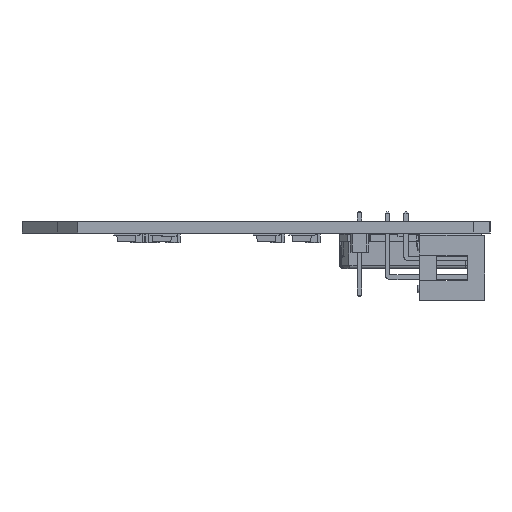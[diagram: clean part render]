
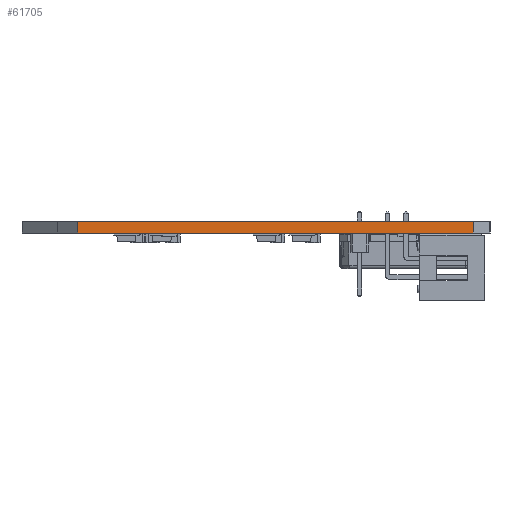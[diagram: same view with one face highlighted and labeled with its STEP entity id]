
A CAD part, left-side view. The second image highlights one B-rep face of the part: STEP entity #61705.
In plain terms, the highlighted planar face has unit normal (-1, 0, 0).
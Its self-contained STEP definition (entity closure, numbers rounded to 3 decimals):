
#58440 = VERTEX_POINT('',#58441);
#58441 = CARTESIAN_POINT('',(28.448,-36.068,0.));
#58447 = EDGE_CURVE('',#58448,#58440,#58450,.T.);
#58448 = VERTEX_POINT('',#58449);
#58449 = CARTESIAN_POINT('',(28.448,-89.916,0.));
#58450 = LINE('',#58451,#58452);
#58451 = CARTESIAN_POINT('',(28.448,-89.916,0.));
#58452 = VECTOR('',#58453,1.);
#58453 = DIRECTION('',(0.,1.,0.));
#60020 = VERTEX_POINT('',#60021);
#60021 = CARTESIAN_POINT('',(28.448,-36.068,1.51));
#60027 = EDGE_CURVE('',#60028,#60020,#60030,.T.);
#60028 = VERTEX_POINT('',#60029);
#60029 = CARTESIAN_POINT('',(28.448,-89.916,1.51));
#60030 = LINE('',#60031,#60032);
#60031 = CARTESIAN_POINT('',(28.448,-89.916,1.51));
#60032 = VECTOR('',#60033,1.);
#60033 = DIRECTION('',(0.,1.,0.));
#61675 = EDGE_CURVE('',#58440,#60020,#61676,.T.);
#61676 = LINE('',#61677,#61678);
#61677 = CARTESIAN_POINT('',(28.448,-36.068,0.));
#61678 = VECTOR('',#61679,1.);
#61679 = DIRECTION('',(0.,0.,1.));
#61705 = ADVANCED_FACE('',(#61706),#61717,.T.);
#61706 = FACE_BOUND('',#61707,.T.);
#61707 = EDGE_LOOP('',(#61708,#61714,#61715,#61716));
#61708 = ORIENTED_EDGE('',*,*,#61709,.T.);
#61709 = EDGE_CURVE('',#58448,#60028,#61710,.T.);
#61710 = LINE('',#61711,#61712);
#61711 = CARTESIAN_POINT('',(28.448,-89.916,0.));
#61712 = VECTOR('',#61713,1.);
#61713 = DIRECTION('',(0.,0.,1.));
#61714 = ORIENTED_EDGE('',*,*,#60027,.T.);
#61715 = ORIENTED_EDGE('',*,*,#61675,.F.);
#61716 = ORIENTED_EDGE('',*,*,#58447,.F.);
#61717 = PLANE('',#61718);
#61718 = AXIS2_PLACEMENT_3D('',#61719,#61720,#61721);
#61719 = CARTESIAN_POINT('',(28.448,-89.916,0.));
#61720 = DIRECTION('',(-1.,0.,0.));
#61721 = DIRECTION('',(0.,1.,0.));
